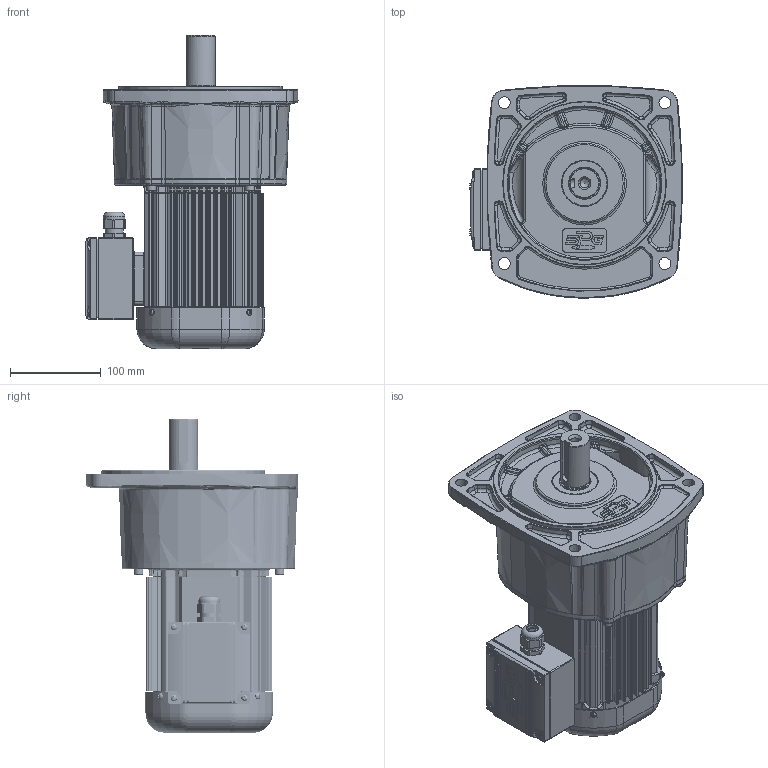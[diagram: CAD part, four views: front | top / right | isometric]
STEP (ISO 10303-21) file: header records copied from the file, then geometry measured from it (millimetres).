
FILE_DESCRIPTION(/* description */ (''),/* implementation_level */ '2;1');
FILE_NAME(/* name */ 'Z:\동력 3D 파일\PAF32_0.4kW_3D.stp',/* time_stamp */ '2021-11-08T15:25:14+09:00',/* author */ ('jaebok'),/* organization */ (''),/* preprocessor_version */ 'ST-DEVELOPER v18.1',/* originating_system */ 'Autodesk Inventor 2022',/* authorisation */ '');
FILE_SCHEMA (('AUTOMOTIVE_DESIGN { 1 0 10303 214 3 1 1 }'));
Products named in the file (1): 부품11
Bounding box: 233.18 x 233.68 x 344.5 mm (x, y, z)
Volume: 2353591.8 mm3; surface area: 683960.8 mm2
Topology: 2 solids, 30 shells, 4004 faces, 10094 edges, 5972 vertices
Faces by surface type: plane 1097, bspline 1069, cylinder 1030, torus 415, cone 261, sphere 132
Full cylindrical faces by diameter (mm): 2 x1, 3.242 x5, 3.25 x1, 3.5 x4, 3.6 x4, 4 x21, 4.917 x4, 5 x20, 5.386 x4, 6 x13, 6.8 x4, 7 x12, 8 x1, 10 x5, 10.106 x1, 12.5 x1, 15 x1, 18 x1, 19 x1, 20 x2, 21 x1, 22 x1, 23.6 x1, 24 x1, 25 x1, 30 x3, 31 x1, 31.96 x1, 32 x1, 32.3 x1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
Entity records: 163979 total; most frequent: CARTESIAN_POINT 71172, ORIENTED_EDGE 19624, DIRECTION 17073, EDGE_CURVE 9812, AXIS2_PLACEMENT_3D 7010, VERTEX_POINT 5971, EDGE_LOOP 4207, FACE_OUTER_BOUND 4004
